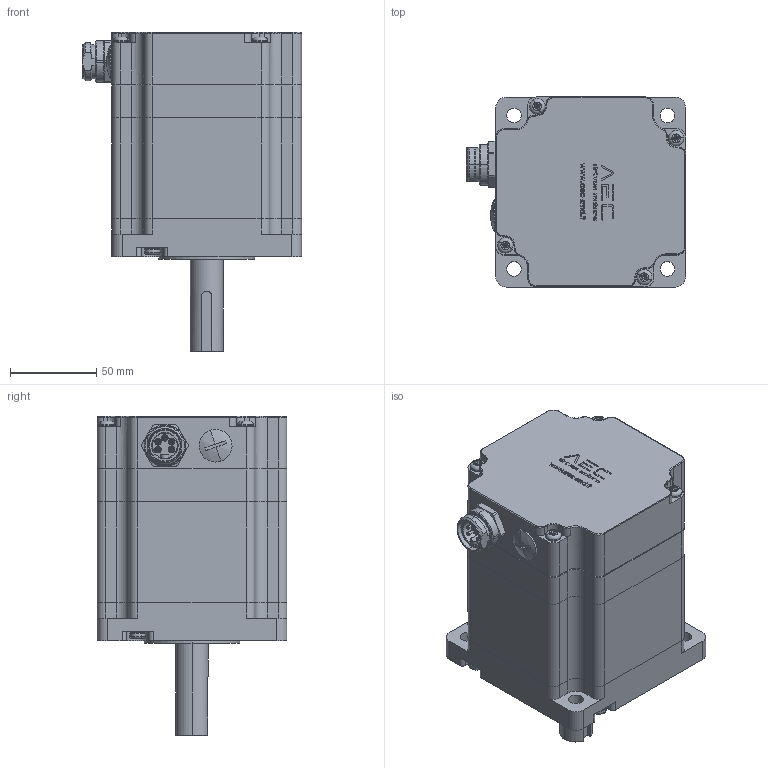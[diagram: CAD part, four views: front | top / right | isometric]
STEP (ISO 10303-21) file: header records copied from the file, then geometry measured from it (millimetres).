
FILE_DESCRIPTION (( 'STEP AP214' ), '1' );
FILE_NAME ('M110SH99-T-C.STEP', '2025-05-24T08:51:55', ( '' ), ( '' ), 'SwSTEP 2.0', 'SolidWorks 2019', '' );
FILE_SCHEMA (( 'AUTOMOTIVE_DESIGN' ));
Length unit declared in the file: millimetre
Products named in the file (1): M110SH99-T-C
Bounding box: 127 x 110 x 185 mm (x, y, z)
Volume: 626108.3 mm3; surface area: 235202.9 mm2
Topology: 45 solids, 45 shells, 1552 faces, 4006 edges, 2574 vertices
Faces by surface type: plane 596, cylinder 438, bspline 297, cone 131, torus 90
Entity records: 76631 total; most frequent: CARTESIAN_POINT 22835, ORIENTED_EDGE 7868, DIRECTION 6973, EDGE_CURVE 3934, AXIS2_PLACEMENT_3D 2584, VERTEX_POINT 2574, VECTOR 1805, LINE 1805
